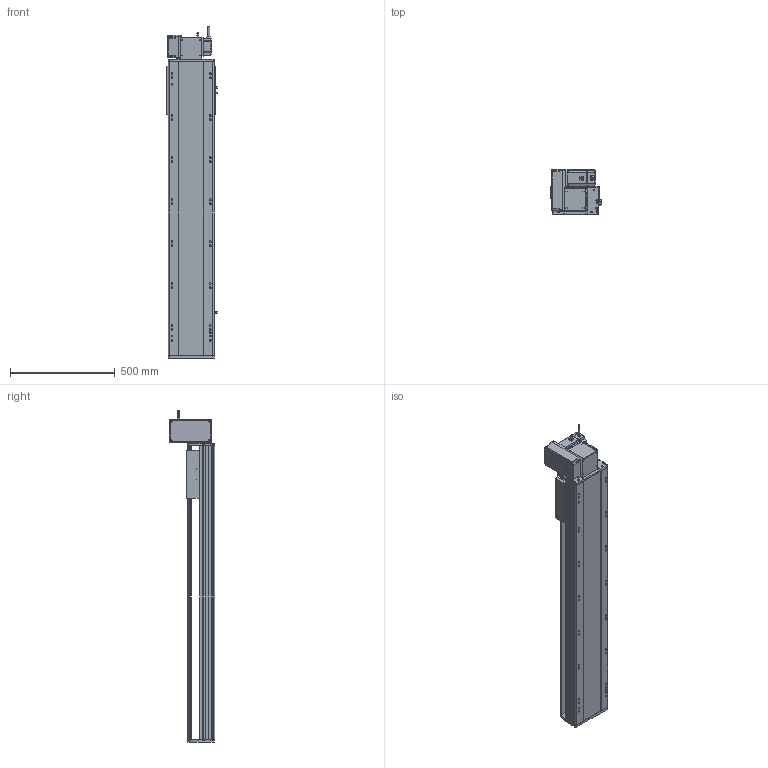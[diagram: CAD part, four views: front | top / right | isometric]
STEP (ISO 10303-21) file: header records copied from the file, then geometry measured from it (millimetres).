
FILE_DESCRIPTION (( 'STEP AP214' ), '1' );
FILE_NAME ('RTB22S-XX-1050-LW-M75-C4.STEP', '2025-12-12T05:55:15', ( '' ), ( '' ), 'SwSTEP 2.0', 'SolidWorks 2018', '' );
FILE_SCHEMA (( 'AUTOMOTIVE_DESIGN' ));
Length unit declared in the file: millimetre
Products named in the file (14): RTB22S-GY-008-M75--萇儂啣^RTB22S-LW-々湍釱蚾饜_RTB22S-XX-XX-LW-M75-C4; RTB22S-GY-007奻裔^RTB22S-XX-XX-LW-M75-C4; RTB22S-XX-1050-LW-M75-C4; RTB22S-GY-017P^RTB22S-LW-々湍釱蚾饜_RTB22S-XX-XX-LW-M75-C4; RTB22S-LW-々湍釱蚾饜^RTB22S-XX-XX-LW-M75-C4; RTB22S-GY-018P^RTB22S-LW-々湍釱蚾饜_RTB22S-XX-XX-LW-M75-C4; RTB22S-L-004賑釱^RTB22S-XX-XX-LW-M75-C4; RTB22S-GY-014--々湍釱^RTB22S-LW-々湍釱蚾饜_RTB22S-XX-XX-LW-M75-C4; RTH22-GY-013外置感应片^RTB22S-XX-XX-LW-M75-C4; RTB22S-GY-005P^RTB22S-LW-々湍釱蚾饜_RTB22S-XX-XX-LW-M75-C4; 750W萇儂^RTB22S-XX-XX-LW-M75-C4; OMRON EE-SX672 传感器^RTB22S-XX-XX-LW-M75-C4; RTB22S-L-011菁釱^RTB22S-XX-XX-LW-M75-C4; RTB22S-GY-001耜裔^RTB22S-XX-XX-LW-M75-C4
Assembly tree (16 placements, depth 3):
  RTB22S-XX-1050-LW-M75-C4
    RTB22S-L-011菁釱^RTB22S-XX-XX-LW-M75-C4
    RTB22S-GY-001耜裔^RTB22S-XX-XX-LW-M75-C4
    750W萇儂^RTB22S-XX-XX-LW-M75-C4
    RTB22S-GY-007奻裔^RTB22S-XX-XX-LW-M75-C4
    RTB22S-L-004賑釱^RTB22S-XX-XX-LW-M75-C4
    RTH22-GY-013外置感应片^RTB22S-XX-XX-LW-M75-C4
    OMRON EE-SX672 传感器^RTB22S-XX-XX-LW-M75-C4  x3
    RTB22S-LW-々湍釱蚾饜^RTB22S-XX-XX-LW-M75-C4
      RTB22S-GY-014--々湍釱^RTB22S-LW-々湍釱蚾饜_RTB22S-XX-XX-LW-M75-C4
      RTB22S-GY-017P^RTB22S-LW-々湍釱蚾饜_RTB22S-XX-XX-LW-M75-C4  x2
      RTB22S-GY-005P^RTB22S-LW-々湍釱蚾饜_RTB22S-XX-XX-LW-M75-C4
      RTB22S-GY-008-M75--萇儂啣^RTB22S-LW-々湍釱蚾饜_RTB22S-XX-XX-LW-M75-C4
      RTB22S-GY-018P^RTB22S-LW-々湍釱蚾饜_RTB22S-XX-XX-LW-M75-C4
Bounding box: 238.5 x 215.5 x 1582.2 mm (x, y, z)
Volume: 21867837.5 mm3; surface area: 2275758.1 mm2
Topology: 15 solids, 15 shells, 1983 faces, 5386 edges, 3452 vertices
Faces by surface type: plane 915, cylinder 622, bspline 296, cone 138, sphere 8, torus 4
Entity records: 52768 total; most frequent: CARTESIAN_POINT 15172, ORIENTED_EDGE 7560, DIRECTION 7274, EDGE_CURVE 3780, AXIS2_PLACEMENT_3D 2566, VERTEX_POINT 2456, LINE 2142, VECTOR 2142
